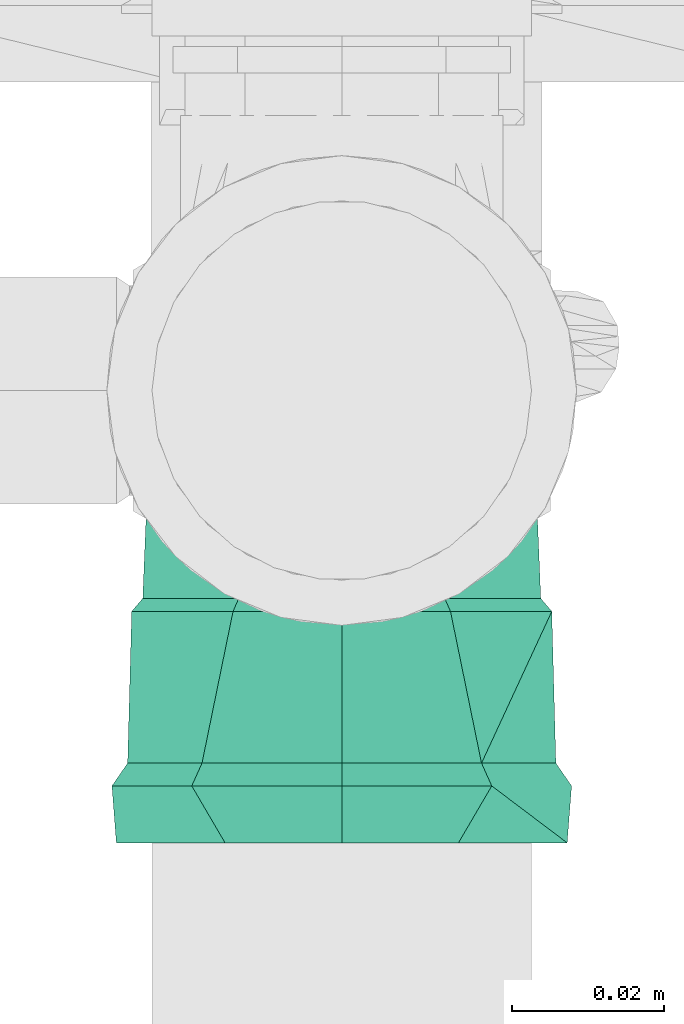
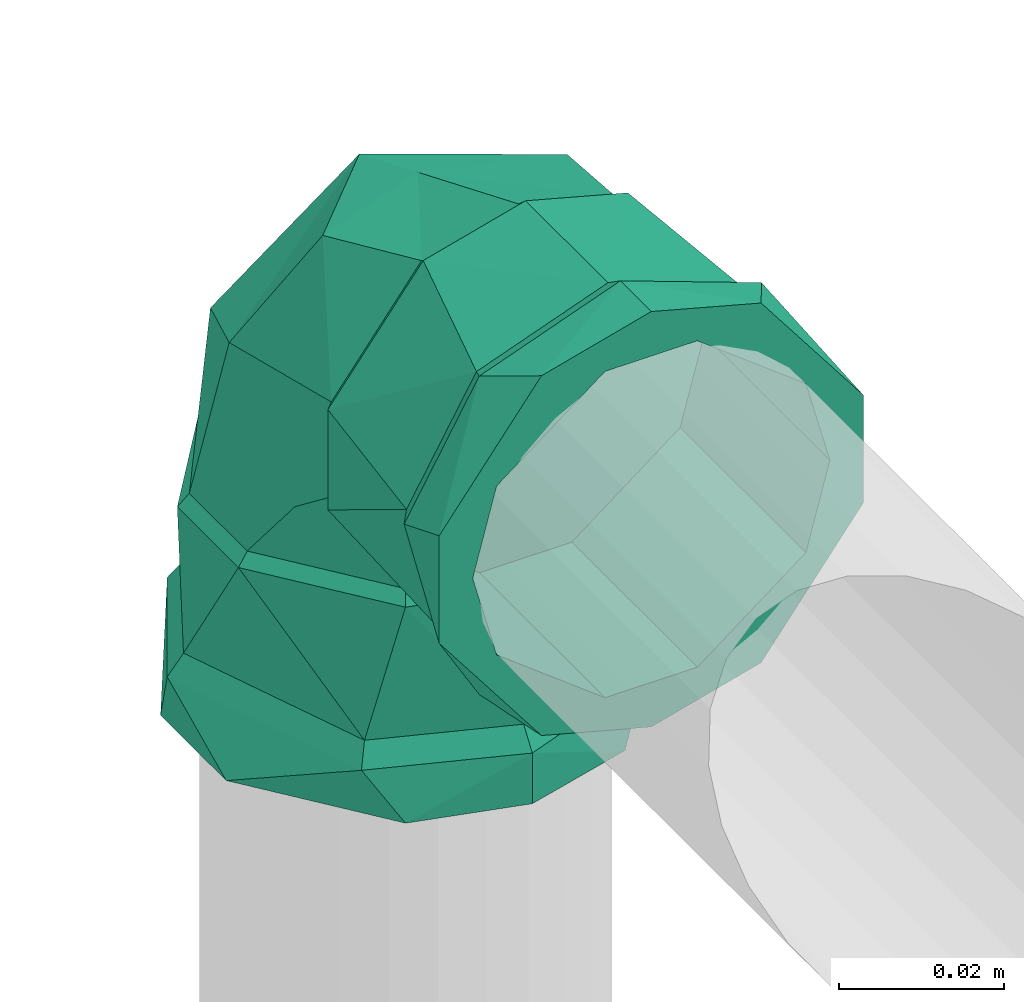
# One storey, part 210 of 589: 1 flow fitting.
"""IFC2X3 building model written with IfcOpenShell, lengths in millimetres."""

from ifc_helpers import new_model, entity, si_unit, converted_unit, derived_unit, direction, frame, origin, place, context, subcontext, project, spatial, faceted_brep, source, transform, mapped, material, type_object, type_shapes, element, save


model = new_model("IFC2X3")

# Units and contexts
model_context = context("Model", 3, precision=0.01, world=origin(), true_north=direction((6.123031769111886e-17, 1.0)))
body_context = subcontext(model_context, "Body", "Model", "MODEL_VIEW")
ifc_project = project(units=[si_unit("LENGTHUNIT", "METRE", prefix="MILLI"), si_unit("AREAUNIT", "SQUARE_METRE"), si_unit("VOLUMEUNIT", "CUBIC_METRE"), converted_unit("PLANEANGLEUNIT", "DEGREE", entity("IfcRatioMeasure", 0.017453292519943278), si_unit("PLANEANGLEUNIT", "RADIAN"), dimensions=[0, 0, 0, 0, 0, 0, 0]), si_unit("MASSUNIT", "GRAM", prefix="KILO"), derived_unit("MASSDENSITYUNIT", [(si_unit("MASSUNIT", "GRAM", prefix="KILO"), 1), (si_unit("LENGTHUNIT", "METRE"), -3)]), derived_unit("IONCONCENTRATIONUNIT", [(si_unit("MASSUNIT", "GRAM", prefix="KILO"), 1), (si_unit("LENGTHUNIT", "METRE"), -3)]), derived_unit("MOMENTOFINERTIAUNIT", [(si_unit("LENGTHUNIT", "METRE"), 4)]), si_unit("TIMEUNIT", "SECOND"), si_unit("FREQUENCYUNIT", "HERTZ"), si_unit("THERMODYNAMICTEMPERATUREUNIT", "DEGREE_CELSIUS"), derived_unit("THERMALTRANSMITTANCEUNIT", [(si_unit("MASSUNIT", "GRAM", prefix="KILO"), 1), (si_unit("THERMODYNAMICTEMPERATUREUNIT", "KELVIN"), -1), (si_unit("TIMEUNIT", "SECOND"), -3)]), derived_unit("THERMALCONDUCTANCEUNIT", [(si_unit("MASSUNIT", "GRAM", prefix="KILO"), 1), (si_unit("THERMODYNAMICTEMPERATUREUNIT", "KELVIN"), -1), (si_unit("TIMEUNIT", "SECOND"), -3), (si_unit("LENGTHUNIT", "METRE"), 1)]), derived_unit("VOLUMETRICFLOWRATEUNIT", [(si_unit("LENGTHUNIT", "METRE"), 3), (si_unit("TIMEUNIT", "SECOND"), -1)]), derived_unit("MASSFLOWRATEUNIT", [(si_unit("MASSUNIT", "GRAM", prefix="KILO"), 1), (si_unit("TIMEUNIT", "SECOND"), -1)]), derived_unit("ROTATIONALFREQUENCYUNIT", [(si_unit("TIMEUNIT", "SECOND"), -1)]), si_unit("ELECTRICCURRENTUNIT", "AMPERE"), si_unit("ELECTRICVOLTAGEUNIT", "VOLT"), si_unit("POWERUNIT", "WATT"), si_unit("FORCEUNIT", "NEWTON", prefix="KILO"), si_unit("ILLUMINANCEUNIT", "LUX"), si_unit("LUMINOUSFLUXUNIT", "LUMEN"), si_unit("LUMINOUSINTENSITYUNIT", "CANDELA"), derived_unit("USERDEFINED", [(si_unit("MASSUNIT", "GRAM", prefix="KILO"), -1), (si_unit("LENGTHUNIT", "METRE"), -2), (si_unit("TIMEUNIT", "SECOND"), 3), (si_unit("LUMINOUSFLUXUNIT", "LUMEN"), 1)]), derived_unit("USERDEFINED", [(si_unit("MASSUNIT", "GRAM", prefix="KILO"), 1), (si_unit("TIMEUNIT", "SECOND"), -3), (si_unit("LENGTHUNIT", "METRE"), 3), (si_unit("ELECTRICCURRENTUNIT", "AMPERE"), -2)]), derived_unit("SOUNDPOWERUNIT", [(si_unit("MASSUNIT", "GRAM", prefix="KILO"), 1), (si_unit("TIMEUNIT", "SECOND"), -3), (si_unit("LENGTHUNIT", "METRE"), 2)]), derived_unit("SOUNDPRESSUREUNIT", [(si_unit("MASSUNIT", "GRAM", prefix="KILO"), 1), (si_unit("LENGTHUNIT", "METRE"), -1), (si_unit("TIMEUNIT", "SECOND"), -2)]), derived_unit("LINEARVELOCITYUNIT", [(si_unit("LENGTHUNIT", "METRE"), 1), (si_unit("TIMEUNIT", "SECOND"), -1)]), si_unit("PRESSUREUNIT", "PASCAL"), derived_unit("USERDEFINED", [(si_unit("MASSUNIT", "GRAM", prefix="KILO"), 1), (si_unit("LENGTHUNIT", "METRE"), -2), (si_unit("TIMEUNIT", "SECOND"), -2)]), derived_unit("LINEARFORCEUNIT", [(si_unit("MASSUNIT", "GRAM", prefix="KILO"), 1), (si_unit("TIMEUNIT", "SECOND"), -2)]), derived_unit("PLANARFORCEUNIT", [(si_unit("MASSUNIT", "GRAM", prefix="KILO"), 1), (si_unit("LENGTHUNIT", "METRE"), -1), (si_unit("TIMEUNIT", "SECOND"), -2)]), derived_unit("SPECIFICHEATCAPACITYUNIT", [(si_unit("THERMODYNAMICTEMPERATUREUNIT", "KELVIN"), -1), (si_unit("LENGTHUNIT", "METRE"), 2), (si_unit("TIMEUNIT", "SECOND"), -2)]), derived_unit("HEATINGVALUEUNIT", [(si_unit("LENGTHUNIT", "METRE"), 2), (si_unit("TIMEUNIT", "SECOND"), -2)]), derived_unit("VAPORPERMEABILITYUNIT", [(si_unit("LENGTHUNIT", "METRE"), -1), (si_unit("TIMEUNIT", "SECOND"), 1)]), derived_unit("DYNAMICVISCOSITYUNIT", [(si_unit("MASSUNIT", "GRAM", prefix="KILO"), 1), (si_unit("TIMEUNIT", "SECOND"), -1), (si_unit("LENGTHUNIT", "METRE"), -1)]), derived_unit("THERMALEXPANSIONCOEFFICIENTUNIT", [(si_unit("THERMODYNAMICTEMPERATUREUNIT", "KELVIN"), -1)]), derived_unit("MODULUSOFELASTICITYUNIT", [(si_unit("MASSUNIT", "GRAM", prefix="KILO"), 1), (si_unit("LENGTHUNIT", "METRE"), -1), (si_unit("TIMEUNIT", "SECOND"), -2)]), derived_unit("ISOTHERMALMOISTURECAPACITYUNIT", [(si_unit("LENGTHUNIT", "METRE"), 3), (si_unit("MASSUNIT", "GRAM", prefix="KILO"), -1)]), derived_unit("MOISTUREDIFFUSIVITYUNIT", [(si_unit("TIMEUNIT", "SECOND"), -1), (si_unit("LENGTHUNIT", "METRE"), 2)])], contexts=[model_context])

# Site, building, storey
site_placement = place(None, origin())
site = spatial("IfcSite", under=ifc_project, at=site_placement, Name="Default", CompositionType="ELEMENT")
building_placement = place(site_placement, origin())
building = spatial("IfcBuilding", under=site, at=building_placement, CompositionType="ELEMENT")
storey_placement = place(building_placement, frame((0.0, 0.0, 100.0)))
storey = spatial("IfcBuildingStorey", under=building, at=storey_placement, Name="TÉRREO", CompositionType="ELEMENT", Elevation=100.0)

# Flow fitting
ifc_material = material(Name="PVC Marrom")
pipe_fitting_type = type_object("IfcPipeFittingType", Name="PVC Marrom Soldável_Joelho 45°_90°_Rodrigo MEP:Joelho", PredefinedType="NOTDEFINED", material=ifc_material)
shared_shape = source(origin(), body_context, "Body", "Brep", [
    faceted_brep([(-28.650000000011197, 29.100000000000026, 0.0), (-24.811627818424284, 29.100000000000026, 14.324999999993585), (-16.11339673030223, 29.100000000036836, 20.999387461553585), (-7.415165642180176, 29.10000000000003, 27.673774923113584), (7.415165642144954, 29.100000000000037, 27.67377492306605), (16.113396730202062, 29.100000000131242, 20.99938746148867), (24.811627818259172, 29.100000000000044, 14.324999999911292), (28.649999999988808, 29.100000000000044, 0.0), (24.811627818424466, 29.100000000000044, -14.32500000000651), (16.113396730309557, 29.09999999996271, -20.99938746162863), (7.41516564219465, 29.100000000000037, -27.673774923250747), (-7.4151656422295, 29.10000000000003, -27.673774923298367), (-16.11339673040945, 29.099999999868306, -20.999387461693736), (-24.811627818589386, 29.100000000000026, -14.325000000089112), (7.026937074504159, 27.400000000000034, 26.2248861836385), (-7.026937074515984, 27.400000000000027, 26.224886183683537), (-15.269763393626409, 27.400000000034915, 19.899943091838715), (-23.512589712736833, 27.400000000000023, 13.574999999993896), (-27.150000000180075, 27.400000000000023, 0.0), (-23.512589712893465, 27.400000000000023, -13.575000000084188), (-15.269763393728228, 27.39999999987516, -19.899943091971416), (-7.02693707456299, 27.400000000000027, -26.224886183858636), (7.026937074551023, 27.400000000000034, -26.224886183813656), (15.269763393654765, 27.399999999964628, -19.899943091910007), (23.51258971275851, 27.40000000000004, -13.575000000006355), (27.149999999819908, 27.40000000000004, 0.0), (23.512589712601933, 27.40000000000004, 13.574999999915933), (15.269763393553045, 27.400000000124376, 19.899943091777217)], [[[0, 1, 2, 3, 4, 5, 6, 7, 8, 9, 10, 11, 12, 13]], [[14, 15, 16, 17, 18, 19, 20, 21, 22, 23, 24, 25, 26, 27]], [[8, 7, 25, 24]], [[10, 9, 8, 24, 23, 22]], [[20, 19, 13, 12, 11, 21]], [[22, 21, 11, 10]], [[0, 13, 19, 18]], [[1, 0, 18, 17]], [[3, 2, 1, 17, 16, 15]], [[27, 26, 6, 5, 4, 14]], [[15, 14, 4, 3]], [[7, 6, 26, 25]]]),
    faceted_brep([(-29.09999999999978, -28.650000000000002, 0.0), (-29.09999999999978, -24.811627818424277, 14.32500000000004), (-29.09999999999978, -16.113396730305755, 20.99938746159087), (-29.09999999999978, -7.415165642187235, 27.673774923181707), (-29.09999999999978, 7.415165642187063, 27.6737749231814), (-29.10000000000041, 16.113396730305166, 20.999387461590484), (-29.09999999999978, 24.81162781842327, 14.324999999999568), (-29.09999999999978, 28.649999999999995, 0.0), (-29.09999999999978, 24.811627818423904, -14.324999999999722), (-29.10000000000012, 16.11339673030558, -20.999387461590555), (-29.09999999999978, 7.415165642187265, -27.67377492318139), (-29.09999999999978, -7.415165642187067, -27.67377492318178), (-29.099999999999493, -16.113396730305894, -20.99938746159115), (-29.09999999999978, -24.81162781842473, -14.325000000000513), (-27.39999999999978, 23.512589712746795, 13.574999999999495), (-27.40000000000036, 15.269763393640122, 19.89994309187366), (-27.39999999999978, 7.026937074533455, 26.22488618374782), (-27.39999999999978, -7.02693707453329, 26.224886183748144), (-27.399999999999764, -15.269763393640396, 19.89994309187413), (-27.39999999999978, -23.512589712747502, 13.575000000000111), (-27.39999999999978, -27.150000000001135, 0.0), (-27.39999999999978, -23.51258971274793, -13.575000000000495), (-27.399999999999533, -15.269763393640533, -19.899943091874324), (-27.39999999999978, -7.026937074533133, -26.224886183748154), (-27.39999999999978, 7.026937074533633, -26.22488618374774), (-27.400000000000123, 15.269763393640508, -19.899943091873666), (-27.39999999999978, 23.512589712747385, -13.574999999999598), (-27.39999999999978, 27.149999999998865, 0.0)], [[[0, 1, 2, 3, 4, 5, 6, 7, 8, 9, 10, 11, 12, 13]], [[14, 15, 16, 17, 18, 19, 20, 21, 22, 23, 24, 25, 26, 27]], [[8, 7, 27, 26]], [[10, 9, 8, 26, 25, 24]], [[22, 21, 13, 12, 11, 23]], [[24, 23, 11, 10]], [[0, 13, 21, 20]], [[1, 0, 20, 19]], [[3, 2, 1, 19, 18, 17]], [[15, 14, 6, 5, 4, 16]], [[17, 16, 4, 3]], [[7, 6, 14, 27]]]),
    faceted_brep([(-59.59999999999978, -7.958685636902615, -29.702219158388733), (-59.59999999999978, 0.0, -25.0), (-59.59999999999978, 7.958685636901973, -29.702219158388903), (-59.59999999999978, -12.500000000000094, -21.650635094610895), (-59.59999999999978, -26.630281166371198, -15.375000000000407), (-59.59999999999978, -24.148145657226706, -6.4704761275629), (-59.59999999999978, -30.749999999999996, 0.0), (-59.59999999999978, -24.148145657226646, 6.470476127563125), (-59.59999999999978, -26.630281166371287, 15.37499999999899), (-59.59999999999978, -12.499999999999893, 21.65063509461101), (-59.59999999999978, -7.958685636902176, 29.702219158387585), (-59.59999999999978, 0.0, 25.0), (-59.59999999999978, 7.958685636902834, 29.70221915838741), (-59.59999999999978, 12.499999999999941, 21.650635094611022), (-59.59999999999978, 26.630281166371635, 15.374999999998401), (-59.59999999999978, 24.14814565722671, 6.470476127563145), (-59.59999999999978, 30.750000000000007, 0.0), (-59.59999999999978, 24.14814565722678, -6.470476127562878), (-59.59999999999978, 26.63028116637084, -15.375000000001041), (-59.59999999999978, 12.500000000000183, -21.65063509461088), (-52.09999999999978, 30.750000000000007, 0.0), (-52.10000000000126, 23.555335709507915, 19.76635170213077), (-52.100000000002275, 5.338054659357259, 30.28312520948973), (-52.10000000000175, -23.557724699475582, 19.763504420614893), (-52.09999999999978, -30.749999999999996, 0.0), (-52.10000000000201, -9.109835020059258, 25.023314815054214), (-52.09999999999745, -23.557724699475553, -19.76350442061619), (-52.09999999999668, -5.34171494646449, -30.28247977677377), (-52.09999999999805, 23.5553357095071, -19.766351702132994), (-52.09999999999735, 9.106810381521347, -25.02441573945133), (-49.10000000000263, 4.971874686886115, 28.21529659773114), (-49.09999999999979, -28.650000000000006, 0.0), (-49.100000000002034, -21.95076584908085, 18.41158273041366), (-49.10000000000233, -8.489445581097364, 23.3134396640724), (-49.100000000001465, 21.94614669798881, 18.417088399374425), (-49.0999999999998, 28.649999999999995, 0.0), (-49.09999999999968, 21.946146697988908, -18.41708839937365), (-49.09999999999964, 8.483597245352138, -23.31556846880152), (-49.09999999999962, -21.95076584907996, -18.411582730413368), (-49.099999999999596, -4.978952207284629, -28.214048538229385), (-29.09999999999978, -12.500000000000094, -21.650635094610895), (-29.09999999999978, -7.415165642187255, -27.6737749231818), (-29.09999999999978, 0.0, -25.0), (-29.09999999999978, -24.811627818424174, -14.324999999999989), (-29.09999999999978, -24.148145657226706, -6.4704761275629), (-29.09999999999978, -28.650000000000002, 0.0), (-29.09999999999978, -24.148145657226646, 6.470476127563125), (-29.09999999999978, -24.811627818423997, 14.3250000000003), (-29.09999999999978, -12.499999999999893, 21.65063509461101), (-29.09999999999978, -7.41516564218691, 27.67377492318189), (-29.09999999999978, 0.0, 25.0), (-29.09999999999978, 7.415165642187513, 27.67377492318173), (-29.09999999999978, 12.499999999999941, 21.650635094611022), (-29.09999999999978, 24.811627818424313, 14.32499999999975), (-29.09999999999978, 24.14814565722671, 6.470476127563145), (-29.09999999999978, 28.650000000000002, 0.0), (-29.09999999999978, 24.14814565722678, -6.470476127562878), (-29.09999999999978, 24.81162781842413, -14.325000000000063), (-29.09999999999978, 12.500000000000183, -21.65063509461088), (-29.09999999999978, 7.415165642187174, -27.67377492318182)], [[[0, 1, 2]], [[1, 0, 3]], [[4, 3, 0]], [[3, 4, 5]], [[5, 4, 6]], [[7, 5, 6]], [[7, 6, 8]], [[8, 9, 7]], [[8, 10, 9]], [[9, 10, 11]], [[12, 11, 10]], [[13, 11, 12]], [[13, 12, 14]], [[14, 15, 13]], [[15, 14, 16]], [[15, 16, 17]], [[18, 17, 16]], [[2, 19, 18]], [[17, 18, 19]], [[19, 2, 1]], [[16, 14, 20]], [[14, 21, 20]], [[21, 14, 12]], [[21, 12, 22]], [[23, 10, 8]], [[24, 8, 6]], [[10, 23, 25, 22]], [[23, 8, 24]], [[10, 22, 12]], [[6, 4, 24]], [[4, 26, 24]], [[26, 4, 0]], [[26, 0, 27]], [[28, 2, 18]], [[20, 18, 16]], [[2, 28, 29, 27]], [[28, 18, 20]], [[2, 27, 0]], [[25, 30, 22]], [[31, 32, 24]], [[24, 32, 23]], [[23, 33, 25]], [[34, 35, 21]], [[23, 32, 33]], [[21, 22, 34]], [[20, 21, 35]], [[30, 25, 33]], [[34, 22, 30]], [[35, 36, 28]], [[28, 20, 35]], [[36, 29, 28]], [[36, 37, 29]], [[37, 27, 29]], [[38, 31, 24]], [[38, 26, 39]], [[26, 38, 24]], [[27, 37, 39]], [[39, 26, 27]], [[40, 41, 42]], [[43, 41, 40]], [[40, 44, 43]], [[44, 45, 43]], [[46, 45, 44]], [[45, 46, 47]], [[48, 47, 46]], [[47, 48, 49]], [[50, 49, 48]], [[51, 49, 50]], [[52, 51, 50]], [[51, 52, 53]], [[54, 53, 52]], [[53, 54, 55]], [[55, 54, 56]], [[55, 56, 57]], [[57, 56, 58]], [[58, 42, 59]], [[59, 57, 58]], [[41, 59, 42]], [[35, 34, 53]], [[35, 53, 55]], [[53, 34, 51]], [[34, 30, 51]], [[49, 30, 33, 32]], [[47, 32, 31]], [[32, 47, 49]], [[47, 31, 45]], [[30, 49, 51]], [[31, 38, 43]], [[31, 43, 45]], [[43, 38, 41]], [[38, 39, 41]], [[59, 39, 37, 36]], [[57, 36, 35]], [[36, 57, 59]], [[57, 35, 55]], [[39, 59, 41]], [[9, 11, 50, 48]], [[7, 9, 48, 46]], [[46, 44, 5, 7]], [[3, 5, 44, 40]], [[1, 3, 40, 42]], [[19, 1, 42, 58]], [[17, 19, 58, 56]], [[56, 54, 15, 17]], [[13, 15, 54, 52]], [[11, 13, 52, 50]]]),
    faceted_brep([(-27.39999999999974, 7.026937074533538, -26.224886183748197), (-27.399999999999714, -7.026937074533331, -26.224886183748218), (-27.399999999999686, -23.51258971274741, -13.575000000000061), (-27.399999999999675, -27.149999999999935, 0.0), (-27.399999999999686, -23.512589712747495, 13.574999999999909), (-27.399999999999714, -7.026937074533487, 26.224886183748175), (-27.39999999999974, 7.026937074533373, 26.22488618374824), (-27.399999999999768, 23.512589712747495, 13.57500000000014), (-27.39999999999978, 27.150000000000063, 0.0), (-27.399999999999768, 23.51258971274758, -13.574999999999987), (-7.026937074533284, 27.399999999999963, -26.224886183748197), (-23.512589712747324, 27.40000000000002, -13.574999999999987), (-27.14999999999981, 27.40000000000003, 0.0), (-23.51258971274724, 27.40000000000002, 13.57500000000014), (-7.026937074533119, 27.399999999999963, 26.22488618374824), (7.026937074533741, 27.39999999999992, 26.224886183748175), (23.512589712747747, 27.399999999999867, 13.574999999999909), (27.15000000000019, 27.399999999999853, 0.0), (23.512589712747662, 27.399999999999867, -13.575000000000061), (7.026937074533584, 27.39999999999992, -26.224886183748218), (-0.7421356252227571, 0.7421330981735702, 25.120395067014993), (-9.561084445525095, -17.668940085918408, 17.12121907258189), (-2.9564114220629, -17.02513409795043, 0.0), (11.17267491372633, -11.172674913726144, 0.0), (17.668938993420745, 9.561081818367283, 17.12121913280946), (-27.22322330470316, 27.223223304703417, 0.0), (-15.959081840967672, 15.95908155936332, 24.723104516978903), (17.025133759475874, 2.956410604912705, 0.0), (-9.561084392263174, -17.668940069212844, -17.12121906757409), (-15.959081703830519, 15.9590814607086, -24.723104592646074), (-0.7421353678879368, 0.7421331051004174, -25.120394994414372), (17.668938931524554, 9.561081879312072, -17.121219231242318)], [[[0, 1, 2, 3, 4, 5, 6, 7, 8, 9]], [[10, 11, 12, 13, 14, 15, 16, 17, 18, 19]], [[5, 20, 6]], [[21, 4, 22]], [[23, 21, 22]], [[15, 20, 24]], [[21, 5, 4]], [[25, 7, 13]], [[23, 24, 20]], [[25, 8, 7]], [[7, 6, 26]], [[4, 3, 22]], [[20, 21, 23]], [[27, 17, 16]], [[20, 26, 6]], [[20, 5, 21]], [[24, 27, 16]], [[7, 26, 13]], [[25, 13, 12]], [[24, 16, 15]], [[20, 14, 26]], [[14, 13, 26]], [[24, 23, 27]], [[14, 20, 15]], [[28, 23, 22]], [[28, 2, 1]], [[29, 9, 11]], [[29, 30, 0]], [[3, 2, 22]], [[30, 19, 31]], [[2, 28, 22]], [[30, 1, 0]], [[23, 28, 30]], [[30, 29, 10]], [[9, 8, 25]], [[25, 12, 11]], [[23, 31, 27]], [[1, 30, 28]], [[11, 10, 29]], [[30, 10, 19]], [[18, 17, 27]], [[23, 30, 31]], [[9, 29, 0]], [[31, 19, 18]], [[18, 27, 31]], [[11, 9, 25]]]),
    faceted_brep([(-12.499999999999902, 29.100000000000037, -21.650635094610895), (-7.415165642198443, 29.100000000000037, -27.6737749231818), (0.0, 29.100000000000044, -25.0), (-24.81162781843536, 29.100000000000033, -14.324999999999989), (-24.148145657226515, 29.100000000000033, -6.4704761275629), (-28.650000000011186, 29.100000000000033, 0.0), (-24.148145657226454, 29.100000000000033, 6.470476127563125), (-24.81162781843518, 29.100000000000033, 14.3250000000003), (-12.4999999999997, 29.100000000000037, 21.65063509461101), (-7.4151656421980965, 29.100000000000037, 27.67377492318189), (0.0, 29.100000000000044, 25.0), (7.415165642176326, 29.100000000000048, 27.67377492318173), (12.500000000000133, 29.100000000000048, 21.650635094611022), (24.811627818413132, 29.10000000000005, 14.32499999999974), (24.148145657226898, 29.10000000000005, 6.470476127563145), (28.649999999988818, 29.10000000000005, 0.0), (24.148145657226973, 29.10000000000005, -6.470476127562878), (24.811627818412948, 29.10000000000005, -14.325000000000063), (12.500000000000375, 29.100000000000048, -21.65063509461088), (7.415165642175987, 29.100000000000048, -27.67377492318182), (28.64999999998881, 49.100000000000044, 0.0), (21.94614669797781, 49.10000000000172, 18.417088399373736), (8.483597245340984, 49.100000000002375, 23.315568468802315), (-4.978952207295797, 49.100000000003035, 28.2140485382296), (-21.950765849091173, 49.10000000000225, 18.41158273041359), (-28.65000000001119, 49.10000000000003, 0.0), (-21.95076584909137, 49.09999999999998, -18.411582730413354), (-8.48944558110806, 49.09999999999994, -23.313439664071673), (4.971874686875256, 49.09999999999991, -28.215296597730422), (21.94614669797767, 49.099999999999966, -18.417088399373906), (-23.55533570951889, 52.10000000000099, 19.766351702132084), (-30.750000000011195, 52.10000000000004, 0.0), (-5.33805465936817, 52.10000000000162, 30.283125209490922), (23.557724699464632, 52.10000000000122, 19.763504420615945), (9.10983502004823, 52.10000000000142, 25.023314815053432), (30.749999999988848, 52.100000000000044, 0.0), (23.557724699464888, 52.10000000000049, -19.763504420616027), (5.3417149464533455, 52.10000000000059, -30.282479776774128), (-23.55533570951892, 52.100000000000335, -19.76635170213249), (-9.106810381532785, 52.10000000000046, -25.02441573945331), (-7.958685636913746, 59.60000000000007, -29.702219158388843), (-12.499999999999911, 59.600000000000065, -21.650635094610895), (0.0, 59.60000000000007, -25.0), (-26.63028116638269, 59.600000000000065, -15.374999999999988), (7.95868563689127, 59.60000000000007, -29.702219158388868), (-24.14814565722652, 59.600000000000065, -6.4704761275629), (-30.750000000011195, 59.60000000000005, 0.0), (-24.148145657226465, 59.600000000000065, 6.470476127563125), (-26.630281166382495, 59.600000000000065, 15.375000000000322), (-12.49999999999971, 59.600000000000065, 21.65063509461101), (-7.958685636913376, 59.60000000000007, 29.70221915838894), (0.0, 59.60000000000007, 25.0), (7.958685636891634, 59.60000000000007, 29.702219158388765), (12.500000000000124, 59.60000000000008, 21.650635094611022), (26.630281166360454, 59.60000000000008, 15.374999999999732), (24.14814565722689, 59.60000000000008, 6.470476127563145), (30.74999999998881, 59.60000000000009, 0.0), (24.148145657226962, 59.60000000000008, -6.470476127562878), (26.63028116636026, 59.60000000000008, -15.37500000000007), (12.500000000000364, 59.60000000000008, -21.65063509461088)], [[[0, 1, 2]], [[3, 1, 0]], [[0, 4, 3]], [[4, 5, 3]], [[6, 5, 4]], [[5, 6, 7]], [[8, 7, 6]], [[7, 8, 9]], [[10, 9, 8]], [[11, 9, 10]], [[12, 11, 10]], [[11, 12, 13]], [[14, 13, 12]], [[13, 14, 15]], [[15, 14, 16]], [[15, 16, 17]], [[17, 16, 18]], [[18, 2, 19]], [[19, 17, 18]], [[1, 19, 2]], [[20, 21, 13]], [[20, 13, 15]], [[13, 21, 11]], [[11, 21, 22, 23]], [[9, 23, 24]], [[7, 24, 25]], [[24, 7, 9]], [[7, 25, 5]], [[23, 9, 11]], [[25, 26, 3]], [[25, 3, 5]], [[3, 26, 1]], [[1, 26, 27, 28]], [[19, 28, 29]], [[17, 29, 20]], [[29, 17, 19]], [[17, 20, 15]], [[28, 19, 1]], [[24, 23, 30]], [[25, 24, 31]], [[31, 24, 30]], [[23, 32, 30]], [[21, 20, 33]], [[21, 33, 34]], [[22, 32, 23]], [[35, 33, 20]], [[32, 22, 34]], [[22, 21, 34]], [[20, 29, 36]], [[36, 35, 20]], [[37, 36, 29]], [[38, 39, 27]], [[29, 28, 37]], [[26, 25, 31]], [[38, 27, 26]], [[38, 26, 31]], [[28, 39, 37]], [[39, 28, 27]], [[40, 41, 42]], [[41, 40, 43]], [[42, 44, 40]], [[43, 45, 41]], [[43, 46, 45]], [[45, 46, 47]], [[48, 47, 46]], [[47, 48, 49]], [[50, 49, 48]], [[49, 50, 51]], [[51, 50, 52]], [[52, 53, 51]], [[54, 53, 52]], [[53, 54, 55]], [[56, 55, 54]], [[56, 57, 55]], [[58, 57, 56]], [[59, 57, 58]], [[59, 58, 44]], [[44, 42, 59]], [[56, 54, 35]], [[54, 33, 35]], [[33, 54, 52]], [[52, 32, 34, 33]], [[30, 50, 48]], [[31, 48, 46]], [[50, 30, 32]], [[30, 48, 31]], [[50, 32, 52]], [[46, 43, 31]], [[43, 38, 31]], [[38, 43, 40]], [[40, 37, 39, 38]], [[36, 44, 58]], [[35, 58, 56]], [[44, 36, 37]], [[36, 58, 35]], [[44, 37, 40]], [[49, 51, 10, 8]], [[47, 49, 8, 6]], [[6, 4, 45, 47]], [[41, 45, 4, 0]], [[42, 41, 0, 2]], [[59, 42, 2, 18]], [[57, 59, 18, 16]], [[16, 14, 55, 57]], [[53, 55, 14, 12]], [[51, 53, 12, 10]]]),
])
type_shapes(pipe_fitting_type, [shared_shape])
flow_fitting_placement = place(storey_placement, frame((10616.154026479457, -477.4611721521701, 3000.0), z_axis=(1.0, 0.0, 0.0), x_axis=(0.0, 0.0, 1.0)))
element("IfcFlowFitting", 1, at=flow_fitting_placement, inside=storey, type_object=pipe_fitting_type, material=ifc_material, Name="PVC Marrom Soldável_Joelho 45°_90°_Rodrigo MEP:Joelho", ObjectType="PVC Marrom Soldável_Joelho 45°_90°_Rodrigo MEP:Joelho", context=body_context, shape_type="MappedRepresentation", body=[
    mapped(shared_shape, transform((0.0, 0.0, 0.0), scale=1.0)),
])

save(model, "model.ifc")
